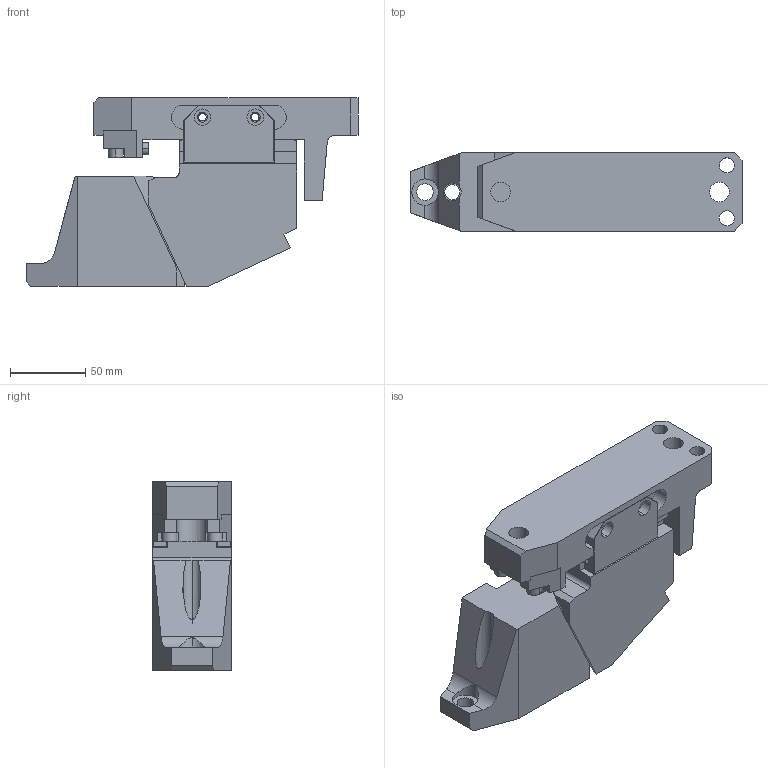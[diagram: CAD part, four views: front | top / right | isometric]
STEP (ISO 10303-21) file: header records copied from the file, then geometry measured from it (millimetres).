
FILE_DESCRIPTION (( 'STEP AP203' ), '1' );
FILE_NAME ('CLD052.65.step', '2014-05-05T08:34:52', ( '' ), ( '' ), 'SwSTEP 2.0', 'SolidWorks 2013', '' );
FILE_SCHEMA (( 'CONFIG_CONTROL_DESIGN' ));
Length unit declared in the file: millimetre
Products named in the file (4): CLD05265-02 CAM SLIDER; CLD05265-01 CAM BASE; CLD05265-03 CAM DRIVER; CLD052.65
Assembly tree (3 placements, depth 2):
  CLD052.65
    CLD05265-01 CAM BASE
    CLD05265-02 CAM SLIDER
    CLD05265-03 CAM DRIVER
Bounding box: 220 x 52 x 125 mm (x, y, z)
Volume: 818118.6 mm3; surface area: 127248.7 mm2
Topology: 3 solids, 7 shells, 364 faces, 940 edges, 597 vertices
Faces by surface type: plane 225, cylinder 112, cone 18, torus 9
Entity records: 11494 total; most frequent: CARTESIAN_POINT 2055, DIRECTION 1914, ORIENTED_EDGE 1860, EDGE_CURVE 930, AXIS2_PLACEMENT_3D 642, LINE 630, VECTOR 630, VERTEX_POINT 597
